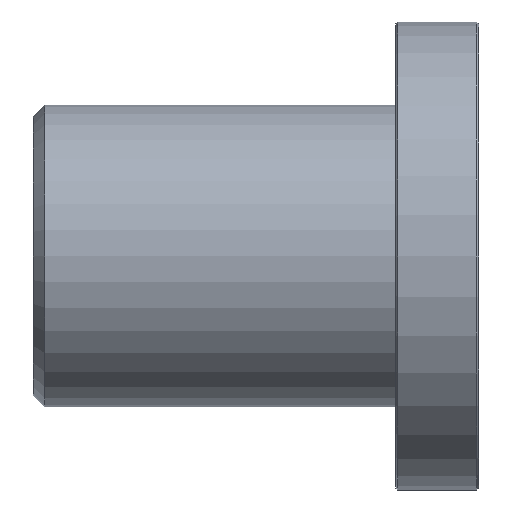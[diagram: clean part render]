
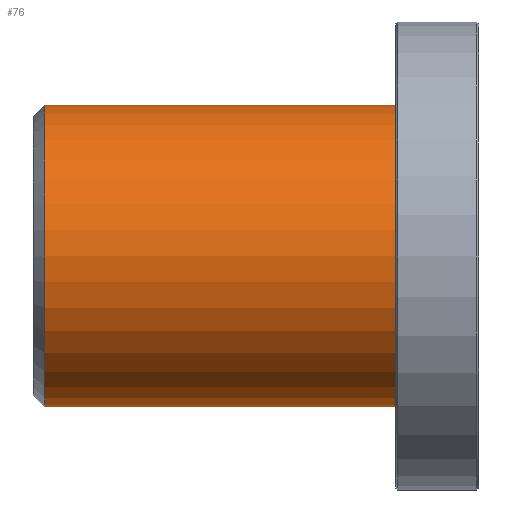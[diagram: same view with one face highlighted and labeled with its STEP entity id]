
A CAD part, front view. The second image highlights one B-rep face of the part: STEP entity #76.
In plain terms, the highlighted cylindrical face has radius 20 mm (diameter 40 mm), a full revolution.
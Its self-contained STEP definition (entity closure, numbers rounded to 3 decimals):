
#76=ADVANCED_FACE('',(#104,#105),#106,.T.);
#104=FACE_OUTER_BOUND('',#175,.T.);
#105=FACE_OUTER_BOUND('',#176,.T.);
#106=CYLINDRICAL_SURFACE('',#177,20.0);
#175=EDGE_LOOP('',(#248));
#176=EDGE_LOOP('',(#249));
#177=AXIS2_PLACEMENT_3D('',#250,#251,#252);
#248=ORIENTED_EDGE('',*,*,#357,.F.);
#249=ORIENTED_EDGE('',*,*,#358,.T.);
#250=CARTESIAN_POINT('',(-59.0,0.,0.0));
#251=DIRECTION('',(-1.0,-0.0,-0.0));
#252=DIRECTION('',(0.0,0.0,-1.0));
#357=EDGE_CURVE('',#387,#387,#388,.T.);
#358=EDGE_CURVE('',#389,#389,#390,.T.);
#387=VERTEX_POINT('',#437);
#388=CIRCLE('',#438,20.0);
#389=VERTEX_POINT('',#439);
#390=CIRCLE('',#440,20.0);
#437=CARTESIAN_POINT('',(-11.0,0.,-20.0));
#438=AXIS2_PLACEMENT_3D('',#492,#493,#494);
#439=CARTESIAN_POINT('',(-57.5,0.,-20.0));
#440=AXIS2_PLACEMENT_3D('',#495,#496,#497);
#492=CARTESIAN_POINT('',(-11.0,0.,0.0));
#493=DIRECTION('',(1.0,0.0,0.0));
#494=DIRECTION('',(0.0,0.0,-1.0));
#495=CARTESIAN_POINT('',(-57.5,0.,0.0));
#496=DIRECTION('',(1.0,0.0,0.0));
#497=DIRECTION('',(0.0,0.0,-1.0));
